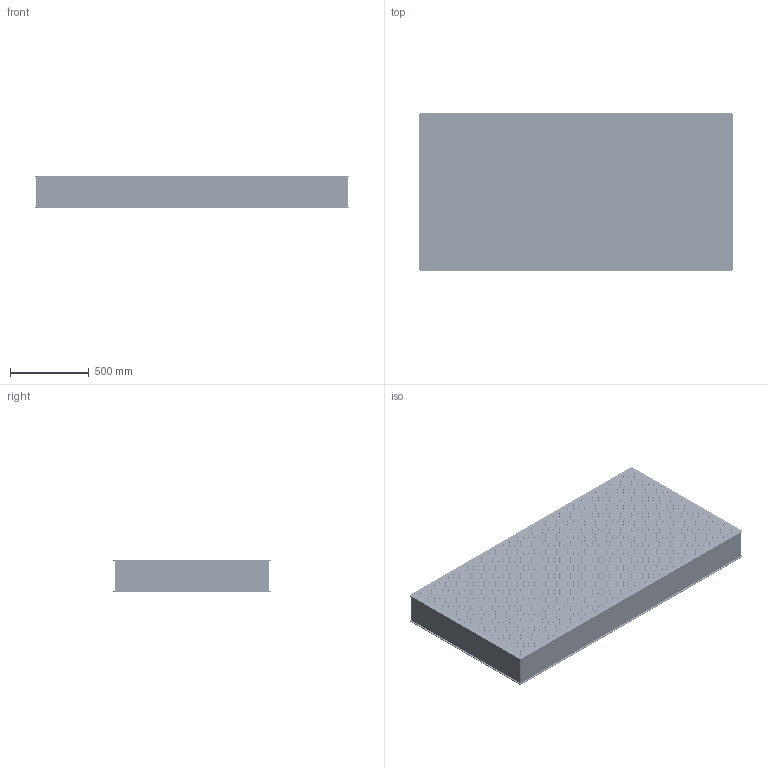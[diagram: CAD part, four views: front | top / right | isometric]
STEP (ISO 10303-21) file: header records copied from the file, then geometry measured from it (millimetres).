
FILE_DESCRIPTION (( 'STEP AP203' ), '1' );
FILE_NAME ('NTBH1020-200 怢醱(AP203).STEP', '2021-05-10T05:39:02', ( '8615811166815' ), ( '' ), 'SwSTEP 2.0', 'SolidWorks 2017', '' );
FILE_SCHEMA (( 'CONFIG_CONTROL_DESIGN' ));
Products named in the file (1): NTBH1020-200 怢醱(AP203)
Bounding box: 2000 x 1000 x 200 mm (x, y, z)
Surface area: 9391623.6 mm2 (no closed solid volume)
Topology: 0 solids, 30 shells, 5740 faces, 17960 edges, 12252 vertices
Faces by surface type: cylinder 5676, plane 64
Entity records: 219106 total; most frequent: DIRECTION 41322, CARTESIAN_POINT 35953, ORIENTED_EDGE 35032, EDGE_CURVE 17960, AXIS2_PLACEMENT_3D 17621, VERTEX_POINT 12252, CIRCLE 11880, EDGE_LOOP 11668
